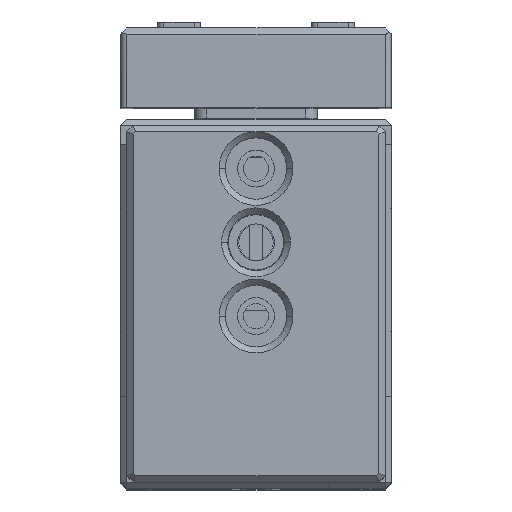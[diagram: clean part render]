
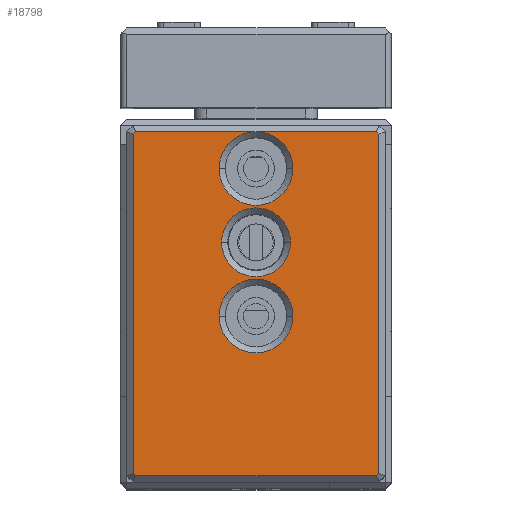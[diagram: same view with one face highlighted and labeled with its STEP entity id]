
A CAD part, top view. The second image highlights one B-rep face of the part: STEP entity #18798.
In plain terms, the highlighted planar face has unit normal (0, 0, 1) as drawn and (0, 0, -1) by its records, which use the part's own axes.
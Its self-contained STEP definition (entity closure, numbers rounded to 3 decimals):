
#409 = EDGE_CURVE ( 'NONE', #9429, #42042, #3453, .T. ) ;
#680 = CARTESIAN_POINT ( 'NONE',  ( 0.354, 0.854, 0. ) ) ;
#1531 = CARTESIAN_POINT ( 'NONE',  ( 10.5, 25.5, 0. ) ) ;
#2064 = VECTOR ( 'NONE', #46344, 1000. ) ;
#2139 = CARTESIAN_POINT ( 'NONE',  ( 10.5, 25.5, 0. ) ) ;
#2880 = EDGE_CURVE ( 'NONE', #37680, #33544, #26208, .T. ) ;
#3275 = CARTESIAN_POINT ( 'NONE',  ( 0.5, 0.5, 0. ) ) ;
#3407 = EDGE_CURVE ( 'NONE', #37997, #29310, #16013, .T. ) ;
#3453 = CIRCLE ( 'NONE', #19422, 3. ) ;
#4148 = EDGE_CURVE ( 'NONE', #20344, #26070, #41481, .T. ) ;
#4270 = DIRECTION ( 'NONE',  ( 0., 0., 1. ) ) ;
#5044 = CARTESIAN_POINT ( 'NONE',  ( 0.5, 28.293, 0. ) ) ;
#5767 = ORIENTED_EDGE ( 'NONE', *, *, #4148, .T. ) ;
#5892 = CARTESIAN_POINT ( 'NONE',  ( 7.7, 19.5, 0. ) ) ;
#6233 = AXIS2_PLACEMENT_3D ( 'NONE', #12680, #4270, #40588 ) ;
#6338 = ORIENTED_EDGE ( 'NONE', *, *, #6383, .T. ) ;
#6383 = EDGE_CURVE ( 'NONE', #10450, #9177, #38338, .T. ) ;
#6549 = VECTOR ( 'NONE', #28348, 1000. ) ;
#6616 = CARTESIAN_POINT ( 'NONE',  ( 20.646, 28.146, 0. ) ) ;
#7183 = CARTESIAN_POINT ( 'NONE',  ( 0.5, 0.707, 0. ) ) ;
#7510 = CIRCLE ( 'NONE', #14230, 3. ) ;
#7614 = FACE_BOUND ( 'NONE', #23685, .T. ) ;
#8139 = CARTESIAN_POINT ( 'NONE',  ( 20.5, 28.5, 0. ) ) ;
#8336 = LINE ( 'NONE', #48071, #6549 ) ;
#8426 = CARTESIAN_POINT ( 'NONE',  ( 13.5, 25.5, 0. ) ) ;
#8616 = DIRECTION ( 'NONE',  ( -1., 0., 0. ) ) ;
#8940 = VERTEX_POINT ( 'NONE', #24823 ) ;
#9177 = VERTEX_POINT ( 'NONE', #36079 ) ;
#9364 = ORIENTED_EDGE ( 'NONE', *, *, #33527, .T. ) ;
#9429 = VERTEX_POINT ( 'NONE', #28496 ) ;
#10354 = EDGE_CURVE ( 'NONE', #39544, #24872, #12760, .T. ) ;
#10450 = VERTEX_POINT ( 'NONE', #5892 ) ;
#10590 = VECTOR ( 'NONE', #16710, 1000. ) ;
#11186 = AXIS2_PLACEMENT_3D ( 'NONE', #2139, #42133, #41360 ) ;
#11205 = VERTEX_POINT ( 'NONE', #8426 ) ;
#11227 = DIRECTION ( 'NONE',  ( -0.707, -0.707, 0. ) ) ;
#12063 = ORIENTED_EDGE ( 'NONE', *, *, #18023, .T. ) ;
#12680 = CARTESIAN_POINT ( 'NONE',  ( 10.5, 19.5, 0. ) ) ;
#12712 = AXIS2_PLACEMENT_3D ( 'NONE', #41394, #25867, #13735 ) ;
#12760 = LINE ( 'NONE', #48034, #47710 ) ;
#13049 = EDGE_LOOP ( 'NONE', ( #48073, #25959, #9364, #43984, #47044, #37337, #41361, #29289, #26714, #18619, #37221, #5767 ) ) ;
#13682 = VECTOR ( 'NONE', #45298, 1000. ) ;
#13735 = DIRECTION ( 'NONE',  ( -1., 0., 0. ) ) ;
#13840 = CARTESIAN_POINT ( 'NONE',  ( 13.5, 13.5, 0. ) ) ;
#14230 = AXIS2_PLACEMENT_3D ( 'NONE', #18872, #34926, #50980 ) ;
#15504 = FACE_OUTER_BOUND ( 'NONE', #13049, .T. ) ;
#15512 = CARTESIAN_POINT ( 'NONE',  ( 20.5, 0.707, 0. ) ) ;
#15921 = EDGE_CURVE ( 'NONE', #26070, #34532, #8336, .T. ) ;
#16013 = LINE ( 'NONE', #8139, #28082 ) ;
#16710 = DIRECTION ( 'NONE',  ( -0.707, 0.707, 0. ) ) ;
#17806 = CARTESIAN_POINT ( 'NONE',  ( 20.293, 28.5, 0. ) ) ;
#18023 = EDGE_CURVE ( 'NONE', #42042, #9429, #7510, .T. ) ;
#18092 = CARTESIAN_POINT ( 'NONE',  ( 20.146, 0.354, 0. ) ) ;
#18095 = CARTESIAN_POINT ( 'NONE',  ( 0.707, 28.5, 0. ) ) ;
#18619 = ORIENTED_EDGE ( 'NONE', *, *, #2880, .T. ) ;
#18798 = ADVANCED_FACE ( 'NONE', ( #23174, #7614, #15504 ), #31056, .T. ) ;
#18872 = CARTESIAN_POINT ( 'NONE',  ( 10.5, 13.5, 0. ) ) ;
#19422 = AXIS2_PLACEMENT_3D ( 'NONE', #39202, #23414, #43407 ) ;
#19943 = DIRECTION ( 'NONE',  ( 0., 0., 1. ) ) ;
#20344 = VERTEX_POINT ( 'NONE', #7183 ) ;
#21795 = DIRECTION ( 'NONE',  ( 0., 0., 1. ) ) ;
#22206 = CIRCLE ( 'NONE', #6233, 2.8 ) ;
#22431 = EDGE_CURVE ( 'NONE', #8940, #11205, #48039, .T. ) ;
#23174 = FACE_BOUND ( 'NONE', #48646, .T. ) ;
#23414 = DIRECTION ( 'NONE',  ( 0., 0., 1. ) ) ;
#23685 = EDGE_LOOP ( 'NONE', ( #47627, #12063 ) ) ;
#24696 = EDGE_CURVE ( 'NONE', #34532, #37997, #33213, .T. ) ;
#24767 = EDGE_CURVE ( 'NONE', #11205, #37997, #31350, .T. ) ;
#24823 = CARTESIAN_POINT ( 'NONE',  ( 7.5, 25.5, 0. ) ) ;
#24872 = VERTEX_POINT ( 'NONE', #15512 ) ;
#25380 = VECTOR ( 'NONE', #11227, 1000. ) ;
#25867 = DIRECTION ( 'NONE',  ( 0., 0., 1. ) ) ;
#25959 = ORIENTED_EDGE ( 'NONE', *, *, #24696, .T. ) ;
#25993 = EDGE_CURVE ( 'NONE', #9177, #10450, #22206, .T. ) ;
#26070 = VERTEX_POINT ( 'NONE', #5044 ) ;
#26197 = EDGE_CURVE ( 'NONE', #29310, #39544, #42409, .T. ) ;
#26208 = LINE ( 'NONE', #3275, #29689 ) ;
#26714 = ORIENTED_EDGE ( 'NONE', *, *, #48286, .T. ) ;
#28082 = VECTOR ( 'NONE', #32086, 1000. ) ;
#28348 = DIRECTION ( 'NONE',  ( 0.707, 0.707, 0. ) ) ;
#28496 = CARTESIAN_POINT ( 'NONE',  ( 7.5, 13.5, 0. ) ) ;
#28821 = DIRECTION ( 'NONE',  ( 0., -1., 0. ) ) ;
#29289 = ORIENTED_EDGE ( 'NONE', *, *, #10354, .T. ) ;
#29310 = VERTEX_POINT ( 'NONE', #17806 ) ;
#29519 = EDGE_CURVE ( 'NONE', #33544, #20344, #36735, .T. ) ;
#29626 = DIRECTION ( 'NONE',  ( 0., 1., 0. ) ) ;
#29689 = VECTOR ( 'NONE', #34371, 1000. ) ;
#29805 = CARTESIAN_POINT ( 'NONE',  ( 0.707, 0.5, 0. ) ) ;
#30640 = VECTOR ( 'NONE', #29626, 1000. ) ;
#31056 = PLANE ( 'NONE',  #34454 ) ;
#31350 = CIRCLE ( 'NONE', #11186, 3. ) ;
#32086 = DIRECTION ( 'NONE',  ( 1., 0., 0. ) ) ;
#33213 = LINE ( 'NONE', #49251, #13682 ) ;
#33527 = EDGE_CURVE ( 'NONE', #37997, #8940, #50549, .T. ) ;
#33544 = VERTEX_POINT ( 'NONE', #29805 ) ;
#33732 = AXIS2_PLACEMENT_3D ( 'NONE', #1531, #21795, #34169 ) ;
#34137 = AXIS2_PLACEMENT_3D ( 'NONE', #44669, #19943, #8616 ) ;
#34169 = DIRECTION ( 'NONE',  ( -1., 0., 0. ) ) ;
#34371 = DIRECTION ( 'NONE',  ( -1., 0., 0. ) ) ;
#34454 = AXIS2_PLACEMENT_3D ( 'NONE', #35513, #43422, #51293 ) ;
#34532 = VERTEX_POINT ( 'NONE', #18095 ) ;
#34926 = DIRECTION ( 'NONE',  ( 0., 0., 1. ) ) ;
#35513 = CARTESIAN_POINT ( 'NONE',  ( 0., 0., 0. ) ) ;
#36079 = CARTESIAN_POINT ( 'NONE',  ( 13.3, 19.5, 0. ) ) ;
#36735 = LINE ( 'NONE', #680, #10590 ) ;
#37221 = ORIENTED_EDGE ( 'NONE', *, *, #29519, .T. ) ;
#37337 = ORIENTED_EDGE ( 'NONE', *, *, #3407, .T. ) ;
#37680 = VERTEX_POINT ( 'NONE', #44243 ) ;
#37997 = VERTEX_POINT ( 'NONE', #42829 ) ;
#38338 = CIRCLE ( 'NONE', #34137, 2.8 ) ;
#39202 = CARTESIAN_POINT ( 'NONE',  ( 10.5, 13.5, 0. ) ) ;
#39544 = VERTEX_POINT ( 'NONE', #48668 ) ;
#40588 = DIRECTION ( 'NONE',  ( -1., 0., 0. ) ) ;
#41360 = DIRECTION ( 'NONE',  ( -1., 0., 0. ) ) ;
#41361 = ORIENTED_EDGE ( 'NONE', *, *, #26197, .T. ) ;
#41394 = CARTESIAN_POINT ( 'NONE',  ( 10.5, 25.5, 0. ) ) ;
#41481 = LINE ( 'NONE', #45417, #30640 ) ;
#42042 = VERTEX_POINT ( 'NONE', #13840 ) ;
#42133 = DIRECTION ( 'NONE',  ( 0., 0., 1. ) ) ;
#42409 = LINE ( 'NONE', #6616, #2064 ) ;
#42829 = CARTESIAN_POINT ( 'NONE',  ( 10.5, 28.5, 0. ) ) ;
#43407 = DIRECTION ( 'NONE',  ( -1., 0., 0. ) ) ;
#43422 = DIRECTION ( 'NONE',  ( 0., 0., -1. ) ) ;
#43984 = ORIENTED_EDGE ( 'NONE', *, *, #22431, .T. ) ;
#44243 = CARTESIAN_POINT ( 'NONE',  ( 20.293, 0.5, 0. ) ) ;
#44669 = CARTESIAN_POINT ( 'NONE',  ( 10.5, 19.5, 0. ) ) ;
#45298 = DIRECTION ( 'NONE',  ( 1., 0., 0. ) ) ;
#45417 = CARTESIAN_POINT ( 'NONE',  ( 0.5, 28.5, 0. ) ) ;
#46344 = DIRECTION ( 'NONE',  ( 0.707, -0.707, 0. ) ) ;
#47044 = ORIENTED_EDGE ( 'NONE', *, *, #24767, .T. ) ;
#47627 = ORIENTED_EDGE ( 'NONE', *, *, #409, .T. ) ;
#47710 = VECTOR ( 'NONE', #28821, 1000. ) ;
#48034 = CARTESIAN_POINT ( 'NONE',  ( 20.5, 0.5, 0. ) ) ;
#48039 = CIRCLE ( 'NONE', #33732, 3. ) ;
#48071 = CARTESIAN_POINT ( 'NONE',  ( 0.854, 28.646, 0. ) ) ;
#48073 = ORIENTED_EDGE ( 'NONE', *, *, #15921, .T. ) ;
#48286 = EDGE_CURVE ( 'NONE', #24872, #37680, #50969, .T. ) ;
#48646 = EDGE_LOOP ( 'NONE', ( #6338, #49776 ) ) ;
#48668 = CARTESIAN_POINT ( 'NONE',  ( 20.5, 28.293, 0. ) ) ;
#49251 = CARTESIAN_POINT ( 'NONE',  ( 20.5, 28.5, 0. ) ) ;
#49776 = ORIENTED_EDGE ( 'NONE', *, *, #25993, .T. ) ;
#50549 = CIRCLE ( 'NONE', #12712, 3. ) ;
#50969 = LINE ( 'NONE', #18092, #25380 ) ;
#50980 = DIRECTION ( 'NONE',  ( -1., 0., 0. ) ) ;
#51293 = DIRECTION ( 'NONE',  ( -1., 0., 0. ) ) ;
